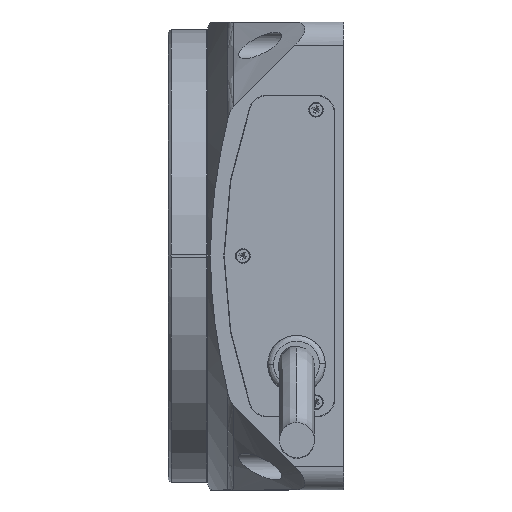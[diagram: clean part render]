
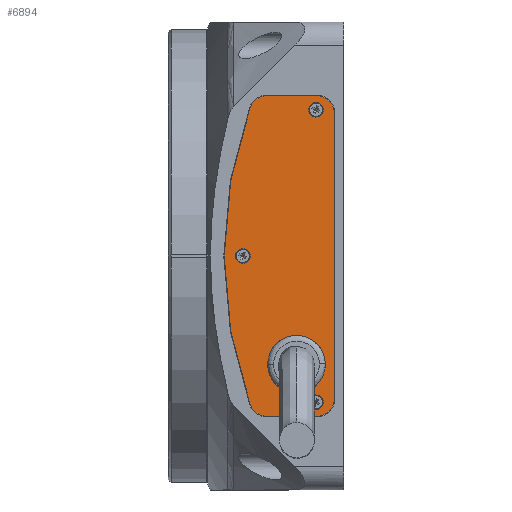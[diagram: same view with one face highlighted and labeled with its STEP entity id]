
A CAD part, left-side view. The second image highlights one B-rep face of the part: STEP entity #6894.
In plain terms, the highlighted planar face has unit normal (-1, 0, 0).
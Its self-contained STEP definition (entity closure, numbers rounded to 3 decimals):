
#19 = CARTESIAN_POINT ( 'NONE',  ( -79.89, 26.056, -48.5 ) ) ;
#60 = EDGE_CURVE ( 'NONE', #6673, #4715, #1869, .T. ) ;
#75 = EDGE_LOOP ( 'NONE', ( #4275, #81 ) ) ;
#81 = ORIENTED_EDGE ( 'NONE', *, *, #7738, .T. ) ;
#118 = VERTEX_POINT ( 'NONE', #5270 ) ;
#169 = EDGE_CURVE ( 'NONE', #4061, #1792, #8515, .T. ) ;
#257 = DIRECTION ( 'NONE',  ( 0., 1., 0. ) ) ;
#339 = EDGE_CURVE ( 'NONE', #3885, #1554, #4026, .T. ) ;
#421 = DIRECTION ( 'NONE',  ( 1., 0., 0. ) ) ;
#475 = EDGE_CURVE ( 'NONE', #118, #2602, #1313, .T. ) ;
#730 = DIRECTION ( 'NONE',  ( 0., 0., -1. ) ) ;
#874 = CARTESIAN_POINT ( 'NONE',  ( -79.89, 26., -37. ) ) ;
#1018 = VERTEX_POINT ( 'NONE', #2202 ) ;
#1045 = AXIS2_PLACEMENT_3D ( 'NONE', #8881, #8857, #8831 ) ;
#1050 = EDGE_CURVE ( 'NONE', #8133, #3885, #1302, .T. ) ;
#1082 = FACE_BOUND ( 'NONE', #3985, .T. ) ;
#1120 = EDGE_CURVE ( 'NONE', #3571, #5677, #4121, .T. ) ;
#1132 = ORIENTED_EDGE ( 'NONE', *, *, #1050, .F. ) ;
#1162 = CARTESIAN_POINT ( 'NONE',  ( -79.89, 9.5, -50. ) ) ;
#1185 = ORIENTED_EDGE ( 'NONE', *, *, #1983, .T. ) ;
#1302 = CIRCLE ( 'NONE', #5466, 149.85 ) ;
#1306 = LINE ( 'NONE', #5805, #4795 ) ;
#1313 = LINE ( 'NONE', #7792, #1520 ) ;
#1337 = AXIS2_PLACEMENT_3D ( 'NONE', #6445, #6418, #7310 ) ;
#1484 = DIRECTION ( 'NONE',  ( 1., 0., 0. ) ) ;
#1520 = VECTOR ( 'NONE', #7824, 1000. ) ;
#1521 = DIRECTION ( 'NONE',  ( 0., 0., 1. ) ) ;
#1554 = VERTEX_POINT ( 'NONE', #8049 ) ;
#1564 = AXIS2_PLACEMENT_3D ( 'NONE', #4146, #4113, #3599 ) ;
#1662 = CARTESIAN_POINT ( 'NONE',  ( -79.89, 34.5, 2.5 ) ) ;
#1669 = VERTEX_POINT ( 'NONE', #874 ) ;
#1695 = CARTESIAN_POINT ( 'NONE',  ( -79.89, -109., 0. ) ) ;
#1792 = VERTEX_POINT ( 'NONE', #7767 ) ;
#1858 = VERTEX_POINT ( 'NONE', #7808 ) ;
#1869 = CIRCLE ( 'NONE', #1045, 2.5 ) ;
#1900 = DIRECTION ( 'NONE',  ( 1., 0., 0. ) ) ;
#1983 = EDGE_CURVE ( 'NONE', #1792, #4061, #8623, .T. ) ;
#2049 = EDGE_LOOP ( 'NONE', ( #3508, #5652, #8479, #3411, #1132, #3941, #7206, #4059 ) ) ;
#2146 = AXIS2_PLACEMENT_3D ( 'NONE', #6022, #1900, #6718 ) ;
#2202 = CARTESIAN_POINT ( 'NONE',  ( -79.89, 6.3, -37. ) ) ;
#2558 = EDGE_CURVE ( 'NONE', #7003, #1554, #1306, .T. ) ;
#2602 = VERTEX_POINT ( 'NONE', #7120 ) ;
#2659 = ORIENTED_EDGE ( 'NONE', *, *, #169, .T. ) ;
#2716 = FACE_OUTER_BOUND ( 'NONE', #2049, .T. ) ;
#3056 = PLANE ( 'NONE',  #5278 ) ;
#3207 = AXIS2_PLACEMENT_3D ( 'NONE', #4596, #421, #5283 ) ;
#3411 = ORIENTED_EDGE ( 'NONE', *, *, #339, .F. ) ;
#3504 = ORIENTED_EDGE ( 'NONE', *, *, #5547, .T. ) ;
#3508 = ORIENTED_EDGE ( 'NONE', *, *, #475, .T. ) ;
#3571 = VERTEX_POINT ( 'NONE', #4658 ) ;
#3594 = CIRCLE ( 'NONE', #2146, 6.35 ) ;
#3599 = DIRECTION ( 'NONE',  ( 0., 0., 1. ) ) ;
#3638 = AXIS2_PLACEMENT_3D ( 'NONE', #1162, #1484, #1521 ) ;
#3643 = AXIS2_PLACEMENT_3D ( 'NONE', #8493, #4413, #257 ) ;
#3751 = CARTESIAN_POINT ( 'NONE',  ( -79.89, 16.15, -37. ) ) ;
#3802 = ORIENTED_EDGE ( 'NONE', *, *, #4409, .T. ) ;
#3829 = AXIS2_PLACEMENT_3D ( 'NONE', #4348, #3978, #3928 ) ;
#3866 = DIRECTION ( 'NONE',  ( 1., 0., 0. ) ) ;
#3885 = VERTEX_POINT ( 'NONE', #4661 ) ;
#3895 = EDGE_CURVE ( 'NONE', #118, #4605, #3594, .T. ) ;
#3896 = DIRECTION ( 'NONE',  ( 1., 0., 0. ) ) ;
#3910 = LINE ( 'NONE', #4859, #5534 ) ;
#3928 = DIRECTION ( 'NONE',  ( 0., 0., 1. ) ) ;
#3941 = ORIENTED_EDGE ( 'NONE', *, *, #7804, .F. ) ;
#3963 = AXIS2_PLACEMENT_3D ( 'NONE', #8007, #3896, #8678 ) ;
#3978 = DIRECTION ( 'NONE',  ( 1., 0., 0. ) ) ;
#3985 = EDGE_LOOP ( 'NONE', ( #3504, #7638 ) ) ;
#4026 = CIRCLE ( 'NONE', #1337, 6.35 ) ;
#4059 = ORIENTED_EDGE ( 'NONE', *, *, #3895, .F. ) ;
#4061 = VERTEX_POINT ( 'NONE', #6214 ) ;
#4113 = DIRECTION ( 'NONE',  ( 1., 0., 0. ) ) ;
#4121 = CIRCLE ( 'NONE', #1564, 2.5 ) ;
#4146 = CARTESIAN_POINT ( 'NONE',  ( -79.89, 9.5, 50. ) ) ;
#4275 = ORIENTED_EDGE ( 'NONE', *, *, #60, .T. ) ;
#4348 = CARTESIAN_POINT ( 'NONE',  ( -79.89, 9.5, -50. ) ) ;
#4409 = EDGE_CURVE ( 'NONE', #5677, #3571, #7244, .T. ) ;
#4413 = DIRECTION ( 'NONE',  ( 1., 0., 0. ) ) ;
#4426 = DIRECTION ( 'NONE',  ( -1., 0., 0. ) ) ;
#4465 = DIRECTION ( 'NONE',  ( 0., 1., 0. ) ) ;
#4567 = FACE_BOUND ( 'NONE', #75, .T. ) ;
#4596 = CARTESIAN_POINT ( 'NONE',  ( -79.89, 9.5, 50. ) ) ;
#4605 = VERTEX_POINT ( 'NONE', #5651 ) ;
#4658 = CARTESIAN_POINT ( 'NONE',  ( -79.89, 9.5, 47.5 ) ) ;
#4661 = CARTESIAN_POINT ( 'NONE',  ( -79.89, 32.032, 50.646 ) ) ;
#4715 = VERTEX_POINT ( 'NONE', #5058 ) ;
#4761 = EDGE_CURVE ( 'NONE', #7003, #2602, #8502, .T. ) ;
#4795 = VECTOR ( 'NONE', #5842, 1000. ) ;
#4859 = CARTESIAN_POINT ( 'NONE',  ( -79.89, 3.15, -54.85 ) ) ;
#4875 = DIRECTION ( 'NONE',  ( 1., 0., 0. ) ) ;
#5058 = CARTESIAN_POINT ( 'NONE',  ( -79.89, 34.5, -2.5 ) ) ;
#5270 = CARTESIAN_POINT ( 'NONE',  ( -79.89, 3.15, -48.5 ) ) ;
#5274 = CARTESIAN_POINT ( 'NONE',  ( -79.89, 9.5, 54.85 ) ) ;
#5278 = AXIS2_PLACEMENT_3D ( 'NONE', #1695, #4426, #6512 ) ;
#5283 = DIRECTION ( 'NONE',  ( 0., 0., 1. ) ) ;
#5466 = AXIS2_PLACEMENT_3D ( 'NONE', #8363, #8337, #8311 ) ;
#5534 = VECTOR ( 'NONE', #6942, 1000. ) ;
#5547 = EDGE_CURVE ( 'NONE', #1669, #1018, #8737, .T. ) ;
#5651 = CARTESIAN_POINT ( 'NONE',  ( -79.89, 9.5, -54.85 ) ) ;
#5652 = ORIENTED_EDGE ( 'NONE', *, *, #4761, .F. ) ;
#5666 = AXIS2_PLACEMENT_3D ( 'NONE', #3751, #8546, #4465 ) ;
#5668 = AXIS2_PLACEMENT_3D ( 'NONE', #7971, #3866, #8652 ) ;
#5677 = VERTEX_POINT ( 'NONE', #7448 ) ;
#5805 = CARTESIAN_POINT ( 'NONE',  ( -79.89, 3.15, 54.85 ) ) ;
#5842 = DIRECTION ( 'NONE',  ( 0., 1., 0. ) ) ;
#5849 = CARTESIAN_POINT ( 'NONE',  ( -79.89, 32.032, -50.646 ) ) ;
#6022 = CARTESIAN_POINT ( 'NONE',  ( -79.89, 9.5, -48.5 ) ) ;
#6029 = EDGE_LOOP ( 'NONE', ( #2659, #1185 ) ) ;
#6035 = CIRCLE ( 'NONE', #5668, 2.5 ) ;
#6145 = EDGE_LOOP ( 'NONE', ( #3802, #8437 ) ) ;
#6214 = CARTESIAN_POINT ( 'NONE',  ( -79.89, 9.5, -47.5 ) ) ;
#6376 = FACE_BOUND ( 'NONE', #6145, .T. ) ;
#6418 = DIRECTION ( 'NONE',  ( 1., 0., 0. ) ) ;
#6445 = CARTESIAN_POINT ( 'NONE',  ( -79.89, 26.056, 48.5 ) ) ;
#6512 = DIRECTION ( 'NONE',  ( 0., -1., 0. ) ) ;
#6545 = EDGE_CURVE ( 'NONE', #1858, #4605, #3910, .T. ) ;
#6673 = VERTEX_POINT ( 'NONE', #1662 ) ;
#6718 = DIRECTION ( 'NONE',  ( 0., 0., -1. ) ) ;
#6894 = ADVANCED_FACE ( 'NONE', ( #1082, #8194, #4567, #6376, #2716 ), #3056, .T. ) ;
#6942 = DIRECTION ( 'NONE',  ( 0., -1., 0. ) ) ;
#7003 = VERTEX_POINT ( 'NONE', #5274 ) ;
#7088 = CIRCLE ( 'NONE', #3643, 9.85 ) ;
#7120 = CARTESIAN_POINT ( 'NONE',  ( -79.89, 3.15, 48.5 ) ) ;
#7206 = ORIENTED_EDGE ( 'NONE', *, *, #6545, .T. ) ;
#7244 = CIRCLE ( 'NONE', #3207, 2.5 ) ;
#7310 = DIRECTION ( 'NONE',  ( 0., 0., -1. ) ) ;
#7448 = CARTESIAN_POINT ( 'NONE',  ( -79.89, 9.5, 52.5 ) ) ;
#7506 = AXIS2_PLACEMENT_3D ( 'NONE', #19, #4875, #730 ) ;
#7638 = ORIENTED_EDGE ( 'NONE', *, *, #8082, .T. ) ;
#7738 = EDGE_CURVE ( 'NONE', #4715, #6673, #6035, .T. ) ;
#7767 = CARTESIAN_POINT ( 'NONE',  ( -79.89, 9.5, -52.5 ) ) ;
#7792 = CARTESIAN_POINT ( 'NONE',  ( -79.89, 3.15, -54.85 ) ) ;
#7804 = EDGE_CURVE ( 'NONE', #1858, #8133, #8795, .T. ) ;
#7808 = CARTESIAN_POINT ( 'NONE',  ( -79.89, 26.056, -54.85 ) ) ;
#7824 = DIRECTION ( 'NONE',  ( 0., 0., 1. ) ) ;
#7971 = CARTESIAN_POINT ( 'NONE',  ( -79.89, 34.5, 0. ) ) ;
#8007 = CARTESIAN_POINT ( 'NONE',  ( -79.89, 9.5, 48.5 ) ) ;
#8049 = CARTESIAN_POINT ( 'NONE',  ( -79.89, 26.056, 54.85 ) ) ;
#8082 = EDGE_CURVE ( 'NONE', #1018, #1669, #7088, .T. ) ;
#8133 = VERTEX_POINT ( 'NONE', #5849 ) ;
#8194 = FACE_BOUND ( 'NONE', #6029, .T. ) ;
#8311 = DIRECTION ( 'NONE',  ( 0., 0., -1. ) ) ;
#8337 = DIRECTION ( 'NONE',  ( 1., 0., 0. ) ) ;
#8363 = CARTESIAN_POINT ( 'NONE',  ( -79.89, -109., 0. ) ) ;
#8437 = ORIENTED_EDGE ( 'NONE', *, *, #1120, .T. ) ;
#8479 = ORIENTED_EDGE ( 'NONE', *, *, #2558, .T. ) ;
#8493 = CARTESIAN_POINT ( 'NONE',  ( -79.89, 16.15, -37. ) ) ;
#8502 = CIRCLE ( 'NONE', #3963, 6.35 ) ;
#8515 = CIRCLE ( 'NONE', #3829, 2.5 ) ;
#8546 = DIRECTION ( 'NONE',  ( 1., 0., 0. ) ) ;
#8623 = CIRCLE ( 'NONE', #3638, 2.5 ) ;
#8652 = DIRECTION ( 'NONE',  ( 0., 0., 1. ) ) ;
#8678 = DIRECTION ( 'NONE',  ( 0., 0., -1. ) ) ;
#8737 = CIRCLE ( 'NONE', #5666, 9.85 ) ;
#8795 = CIRCLE ( 'NONE', #7506, 6.35 ) ;
#8831 = DIRECTION ( 'NONE',  ( 0., 0., 1. ) ) ;
#8857 = DIRECTION ( 'NONE',  ( 1., 0., 0. ) ) ;
#8881 = CARTESIAN_POINT ( 'NONE',  ( -79.89, 34.5, 0. ) ) ;
